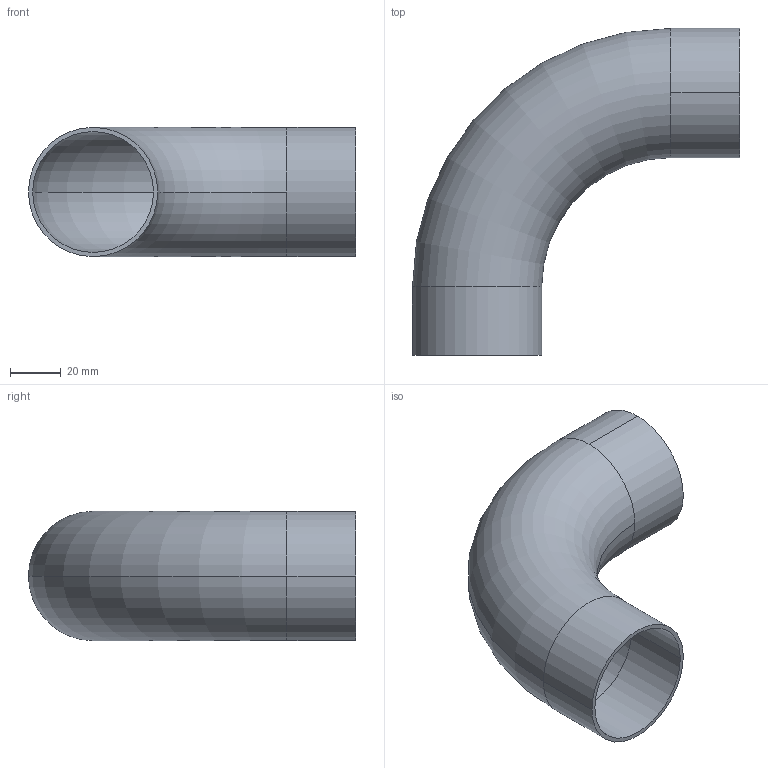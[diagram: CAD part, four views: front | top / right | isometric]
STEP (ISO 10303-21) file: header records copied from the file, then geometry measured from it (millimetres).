
FILE_DESCRIPTION (( 'STEP AP203' ), '1' );
FILE_NAME ('E2S2.0.STEP', '2018-04-30T18:02:29', ( 'vneprd' ), ( 'Microsoft' ), 'SwSTEP 2.0', 'SolidWorks 2014', '' );
FILE_SCHEMA (( 'CONFIG_CONTROL_DESIGN' ));
Length unit declared in the file: inch
Products named in the file (1): E2S2.0
Bounding box: 128.57 x 128.57 x 50.8 mm (x, y, z)
Volume: 44266.2 mm3; surface area: 54133.3 mm2
Topology: 1 solids, 1 shells, 14 faces, 32 edges, 20 vertices
Faces by surface type: cylinder 8, torus 4, plane 2
Entity records: 491 total; most frequent: DIRECTION 86, CARTESIAN_POINT 67, ORIENTED_EDGE 64, AXIS2_PLACEMENT_3D 39, EDGE_CURVE 32, CIRCLE 24, VERTEX_POINT 20, EDGE_LOOP 16
